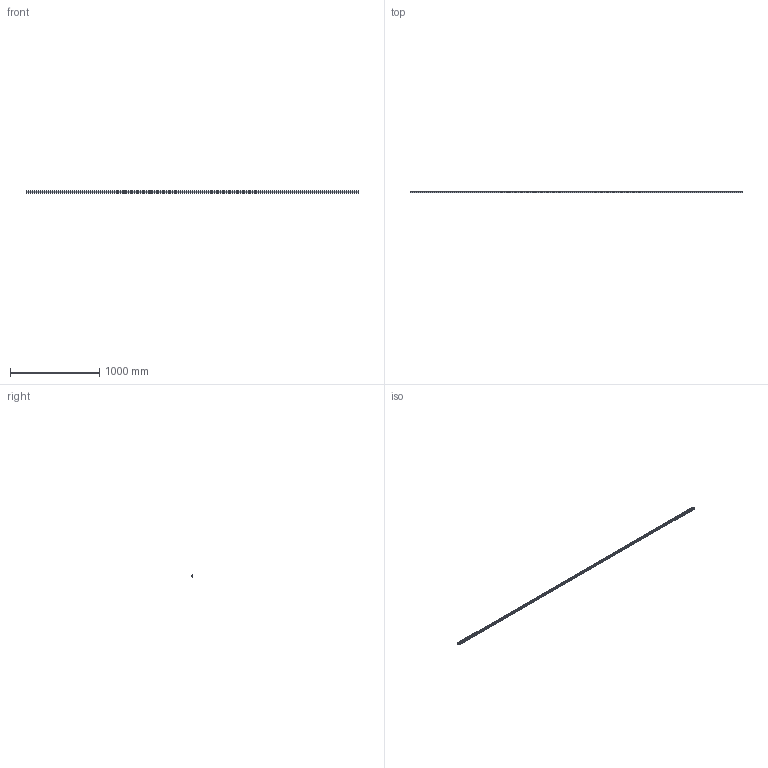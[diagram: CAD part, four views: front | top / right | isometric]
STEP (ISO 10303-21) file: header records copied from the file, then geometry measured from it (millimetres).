
FILE_DESCRIPTION (( 'STEP AP203' ), '1' );
FILE_NAME ('L1018.25R-3720.step', '2023-08-06T10:49:30', ( '' ), ( '' ), 'SwSTEP 2.0', 'SolidWorks 2019', '' );
FILE_SCHEMA (( 'CONFIG_CONTROL_DESIGN' ));
Length unit declared in the file: millimetre
Products named in the file (1): L1018.25R-3720
Bounding box: 3720 x 21.8 x 25 mm (x, y, z)
Volume: 1547103.8 mm3; surface area: 370241.2 mm2
Topology: 1 solids, 1 shells, 587 faces, 1321 edges, 736 vertices
Faces by surface type: cylinder 251, cone 248, plane 88
Entity records: 15506 total; most frequent: DIRECTION 2999, CARTESIAN_POINT 2521, ORIENTED_EDGE 2394, AXIS2_PLACEMENT_3D 1214, EDGE_CURVE 1197, VERTEX_POINT 736, EDGE_LOOP 711, CIRCLE 626
